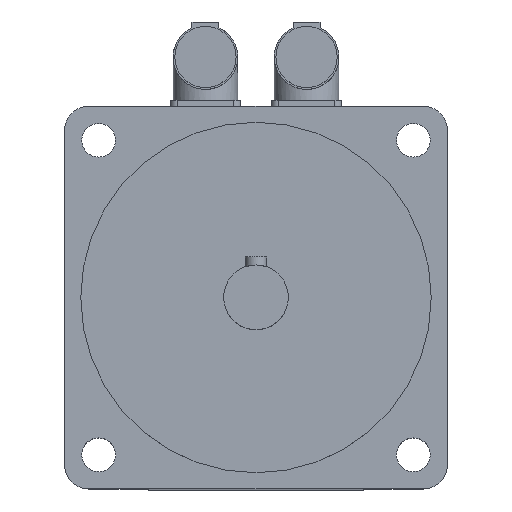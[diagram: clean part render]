
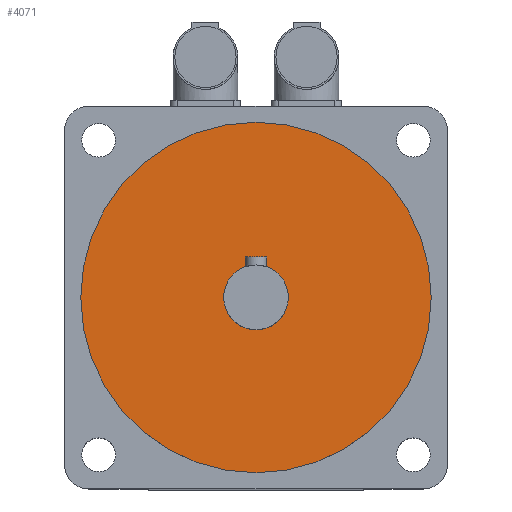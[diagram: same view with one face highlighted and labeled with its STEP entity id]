
A CAD part, top view. The second image highlights one B-rep face of the part: STEP entity #4071.
In plain terms, the highlighted planar face has unit normal (0, 0, 1).
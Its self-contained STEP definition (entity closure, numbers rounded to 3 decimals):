
#28=FACE_BOUND('',#533,.T.);
#79=PLANE('',#4432);
#278=FACE_OUTER_BOUND('',#532,.T.);
#532=EDGE_LOOP('',(#2985));
#533=EDGE_LOOP('',(#2986));
#1517=CIRCLE('',#4427,12.);
#1518=CIRCLE('',#4430,65.);
#1774=VERTEX_POINT('',#6532);
#1775=VERTEX_POINT('',#6536);
#2232=EDGE_CURVE('',#1774,#1774,#1517,.T.);
#2233=EDGE_CURVE('',#1775,#1775,#1518,.T.);
#2985=ORIENTED_EDGE('',*,*,#2233,.T.);
#2986=ORIENTED_EDGE('',*,*,#2232,.T.);
#4071=ADVANCED_FACE('',(#278,#28),#79,.F.);
#4427=AXIS2_PLACEMENT_3D('',#6533,#5205,#5206);
#4430=AXIS2_PLACEMENT_3D('',#6537,#5211,#5212);
#4432=AXIS2_PLACEMENT_3D('',#6540,#5215,#5216);
#5205=DIRECTION('center_axis',(0.,0.,
-1.));
#5206=DIRECTION('ref_axis',(-1.,0.,0.));
#5211=DIRECTION('center_axis',(0.,0.,
1.));
#5212=DIRECTION('ref_axis',(-1.,0.,0.));
#5215=DIRECTION('center_axis',(0.,0.,
-1.));
#5216=DIRECTION('ref_axis',(-1.,0.,0.));
#6532=CARTESIAN_POINT('',(12.,0.,201.5));
#6533=CARTESIAN_POINT('Origin',(0.,0.,
201.5));
#6536=CARTESIAN_POINT('',(65.,0.,201.5));
#6537=CARTESIAN_POINT('Origin',(0.,0.,
201.5));
#6540=CARTESIAN_POINT('Origin',(0.,0.,
201.5));
